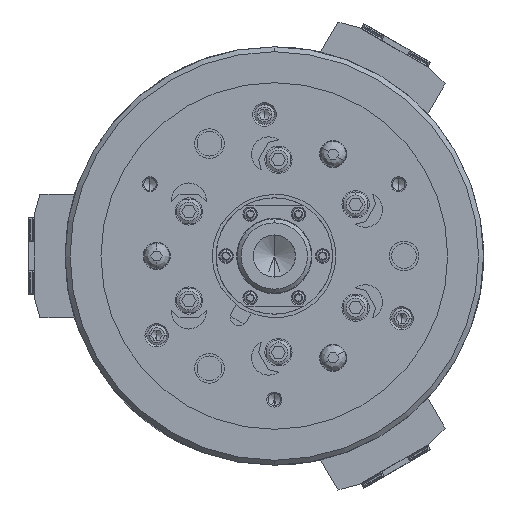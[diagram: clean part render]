
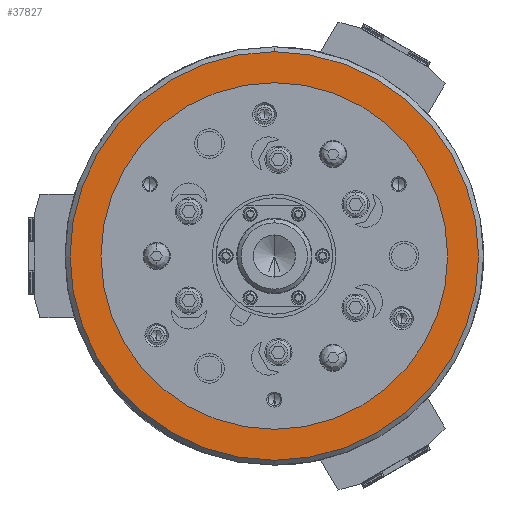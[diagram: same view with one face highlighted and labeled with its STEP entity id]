
A CAD part, left-side view. The second image highlights one B-rep face of the part: STEP entity #37827.
In plain terms, the highlighted planar face has unit normal (-1, 0, 0).
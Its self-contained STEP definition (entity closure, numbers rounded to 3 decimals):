
#3638 = DIRECTION ( 'NONE',  ( 0., 0., -1. ) ) ;
#4826 = AXIS2_PLACEMENT_3D ( 'NONE', #71115, #37418, #3638 ) ;
#9273 = DIRECTION ( 'NONE',  ( 1., 0., 0. ) ) ;
#11088 = CARTESIAN_POINT ( 'NONE',  ( -86., 0., 0. ) ) ;
#12354 = EDGE_CURVE ( 'NONE', #35300, #35809, #67206, .T. ) ;
#13048 = VERTEX_POINT ( 'NONE', #43725 ) ;
#13636 = CIRCLE ( 'NONE', #24452, 82.5 ) ;
#16448 = CARTESIAN_POINT ( 'NONE',  ( -86., 0., 0. ) ) ;
#16757 = DIRECTION ( 'NONE',  ( 0., 0., -1. ) ) ;
#21753 = CIRCLE ( 'NONE', #52713, 70. ) ;
#22108 = DIRECTION ( 'NONE',  ( 0., 0., -1. ) ) ;
#23673 = FACE_BOUND ( 'NONE', #65882, .T. ) ;
#24452 = AXIS2_PLACEMENT_3D ( 'NONE', #16448, #55856, #22108 ) ;
#27219 = CARTESIAN_POINT ( 'NONE',  ( -86., 0., 82.5 ) ) ;
#27779 = ORIENTED_EDGE ( 'NONE', *, *, #12354, .F. ) ;
#30987 = DIRECTION ( 'NONE',  ( -1., 0., 0. ) ) ;
#33789 = EDGE_LOOP ( 'NONE', ( #52813, #27779 ) ) ;
#33927 = AXIS2_PLACEMENT_3D ( 'NONE', #43071, #9273, #48710 ) ;
#35300 = VERTEX_POINT ( 'NONE', #27219 ) ;
#35809 = VERTEX_POINT ( 'NONE', #43652 ) ;
#37418 = DIRECTION ( 'NONE',  ( 1., 0., 0. ) ) ;
#37827 = ADVANCED_FACE ( 'NONE', ( #40444, #23673 ), #64718, .T. ) ;
#39896 = ORIENTED_EDGE ( 'NONE', *, *, #58993, .T. ) ;
#39925 = VERTEX_POINT ( 'NONE', #48392 ) ;
#40444 = FACE_OUTER_BOUND ( 'NONE', #33789, .T. ) ;
#43071 = CARTESIAN_POINT ( 'NONE',  ( -86., 0., 0. ) ) ;
#43652 = CARTESIAN_POINT ( 'NONE',  ( -86., 0., -82.5 ) ) ;
#43725 = CARTESIAN_POINT ( 'NONE',  ( -86., 0., -70. ) ) ;
#48392 = CARTESIAN_POINT ( 'NONE',  ( -86., 0., 70. ) ) ;
#48710 = DIRECTION ( 'NONE',  ( 0., 0., -1. ) ) ;
#50525 = DIRECTION ( 'NONE',  ( 1., 0., 0. ) ) ;
#52713 = AXIS2_PLACEMENT_3D ( 'NONE', #11088, #50525, #16757 ) ;
#52813 = ORIENTED_EDGE ( 'NONE', *, *, #66201, .F. ) ;
#55856 = DIRECTION ( 'NONE',  ( 1., 0., 0. ) ) ;
#57104 = EDGE_CURVE ( 'NONE', #13048, #39925, #21753, .T. ) ;
#58993 = EDGE_CURVE ( 'NONE', #39925, #13048, #64527, .T. ) ;
#64527 = CIRCLE ( 'NONE', #33927, 70. ) ;
#64718 = PLANE ( 'NONE',  #69463 ) ;
#65692 = ORIENTED_EDGE ( 'NONE', *, *, #57104, .T. ) ;
#65882 = EDGE_LOOP ( 'NONE', ( #65692, #39896 ) ) ;
#66201 = EDGE_CURVE ( 'NONE', #35809, #35300, #13636, .T. ) ;
#67206 = CIRCLE ( 'NONE', #4826, 82.5 ) ;
#69463 = AXIS2_PLACEMENT_3D ( 'NONE', #70167, #30987, #70402 ) ;
#70167 = CARTESIAN_POINT ( 'NONE',  ( -86., 41.25, -71.447 ) ) ;
#70402 = DIRECTION ( 'NONE',  ( 0., 0., 1. ) ) ;
#71115 = CARTESIAN_POINT ( 'NONE',  ( -86., 0., 0. ) ) ;
